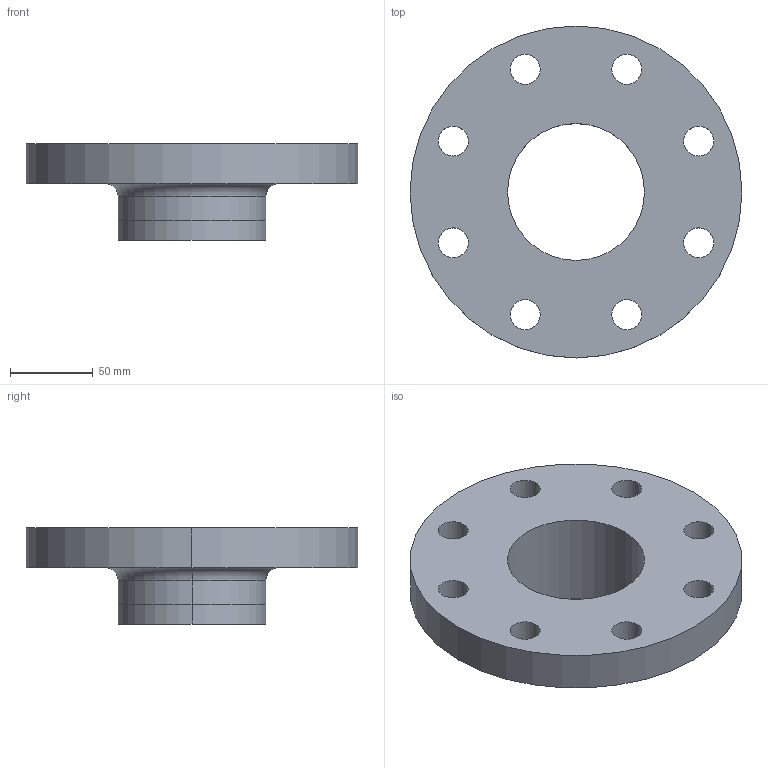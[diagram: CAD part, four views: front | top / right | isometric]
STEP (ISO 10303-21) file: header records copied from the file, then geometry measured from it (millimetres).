
FILE_DESCRIPTION (( 'STEP AP214' ), '1' );
FILE_NAME ('PN40 DN80 Type 11 - Type A Face.STEP', '2019-01-01T19:43:18', ( '' ), ( '' ), 'SwSTEP 2.0', 'SolidWorks 2019', '' );
FILE_SCHEMA (( 'AUTOMOTIVE_DESIGN' ));
Length unit declared in the file: millimetre
Products named in the file (1): PN40 DN80 Type 11 - Type A Face
Bounding box: 200 x 200 x 58 mm (x, y, z)
Volume: 610326.1 mm3; surface area: 97593.6 mm2
Topology: 1 solids, 1 shells, 31 faces, 78 edges, 50 vertices
Faces by surface type: cylinder 22, torus 4, plane 3, cone 2
Entity records: 1028 total; most frequent: DIRECTION 196, CARTESIAN_POINT 160, ORIENTED_EDGE 156, AXIS2_PLACEMENT_3D 86, EDGE_CURVE 78, CIRCLE 54, EDGE_LOOP 50, VERTEX_POINT 50
